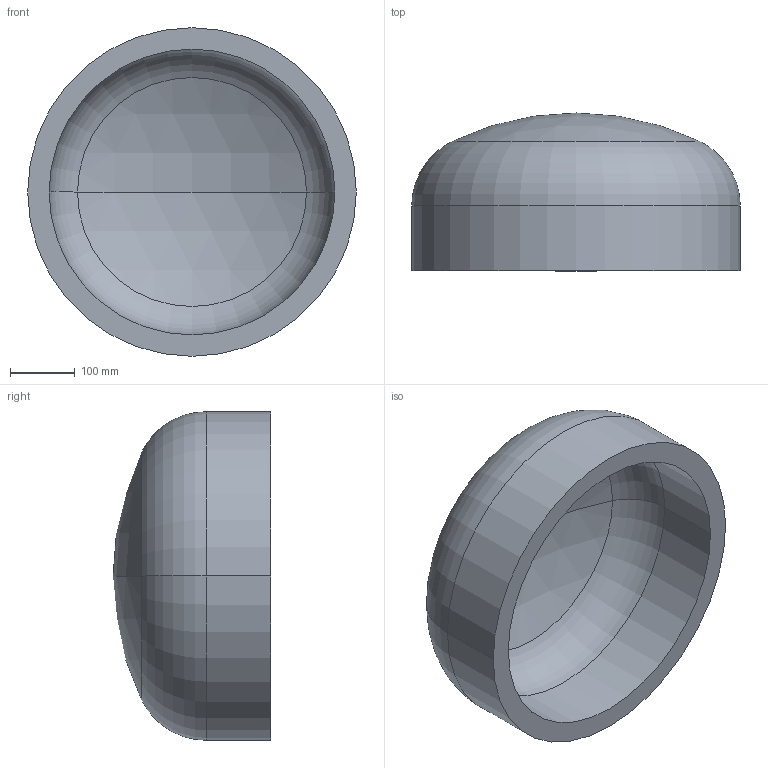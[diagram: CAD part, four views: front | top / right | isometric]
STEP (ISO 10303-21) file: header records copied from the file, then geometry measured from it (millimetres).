
FILE_DESCRIPTION (( 'STEP AP203' ), '1' );
FILE_NAME ('DIN 28013 Korbbogenform_-_Boden DIN 28013 - 508 x 100 - I - s=33.step', '2016-07-01T07:54:06', ( '' ), ( '' ), 'SwSTEP 2.0', 'SolidWorks 2013', '' );
FILE_SCHEMA (( 'CONFIG_CONTROL_DESIGN' ));
Length unit declared in the file: millimetre
Products named in the file (1): DIN 28013 Korbbogenform_-_Boden DIN 28013 - 508 x 100 - I - s=33
Bounding box: 508 x 243.81 x 508 mm (x, y, z)
Volume: 13449719.9 mm3; surface area: 866659.7 mm2
Topology: 1 solids, 1 shells, 13 faces, 24 edges, 14 vertices
Faces by surface type: torus 4, cylinder 4, sphere 4, plane 1
Entity records: 407 total; most frequent: DIRECTION 72, CARTESIAN_POINT 52, ORIENTED_EDGE 48, AXIS2_PLACEMENT_3D 34, EDGE_CURVE 24, CIRCLE 20, VERTEX_POINT 14, EDGE_LOOP 14
